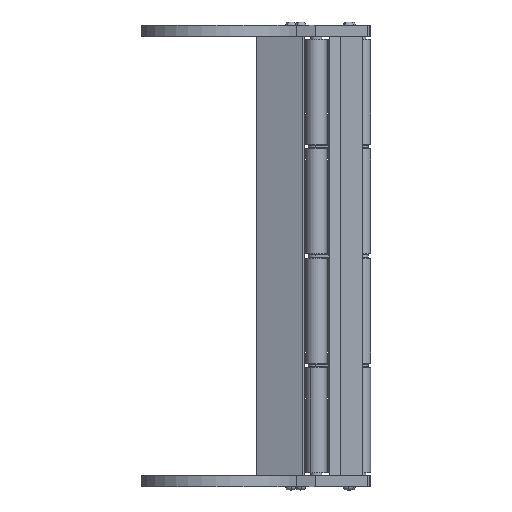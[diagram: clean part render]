
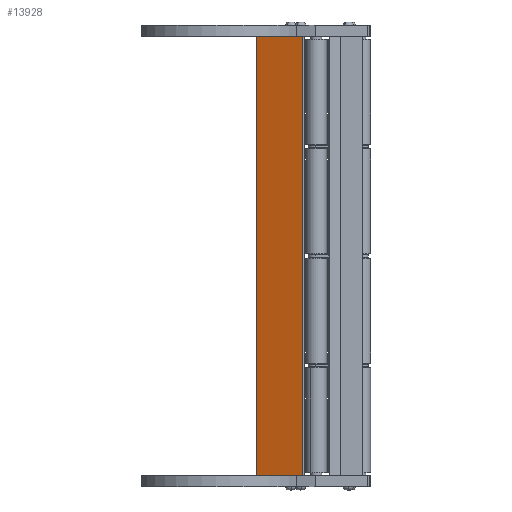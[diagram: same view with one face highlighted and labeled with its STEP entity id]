
A CAD part, front view. The second image highlights one B-rep face of the part: STEP entity #13928.
In plain terms, the highlighted planar face has unit normal (-0.342, -0.94, 0) as drawn and (0.342, -0.94, 0) by its records, which use the part's own axes.
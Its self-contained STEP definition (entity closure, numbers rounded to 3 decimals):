
#1129 = CARTESIAN_POINT ( 'NONE',  ( 1.655, 0., 316. ) ) ;
#1364 = VECTOR ( 'NONE', #8204, 1000. ) ;
#1805 = EDGE_CURVE ( 'NONE', #5813, #10545, #4892, .T. ) ;
#2301 = EDGE_CURVE ( 'NONE', #13334, #10287, #17823, .T. ) ;
#2411 = FACE_OUTER_BOUND ( 'NONE', #14574, .T. ) ;
#2855 = DIRECTION ( 'NONE',  ( -0.342, 0.94, 0. ) ) ;
#3111 = EDGE_CURVE ( 'NONE', #10287, #10545, #5235, .T. ) ;
#3582 = VECTOR ( 'NONE', #16710, 1000. ) ;
#3691 = VECTOR ( 'NONE', #6931, 1000. ) ;
#4084 = CARTESIAN_POINT ( 'NONE',  ( 1.655, 0., 316. ) ) ;
#4892 = LINE ( 'NONE', #5068, #3582 ) ;
#5068 = CARTESIAN_POINT ( 'NONE',  ( 35., 12.137, 316. ) ) ;
#5128 = AXIS2_PLACEMENT_3D ( 'NONE', #18409, #2855, #5354 ) ;
#5235 = LINE ( 'NONE', #17257, #1364 ) ;
#5354 = DIRECTION ( 'NONE',  ( -0.94, -0.342, 0. ) ) ;
#5813 = VERTEX_POINT ( 'NONE', #12824 ) ;
#6242 = ORIENTED_EDGE ( 'NONE', *, *, #1805, .F. ) ;
#6931 = DIRECTION ( 'NONE',  ( 0.94, 0.342, 0. ) ) ;
#8204 = DIRECTION ( 'NONE',  ( 0.94, 0.342, 0. ) ) ;
#8363 = ORIENTED_EDGE ( 'NONE', *, *, #9775, .F. ) ;
#9775 = EDGE_CURVE ( 'NONE', #13334, #5813, #17047, .T. ) ;
#10287 = VERTEX_POINT ( 'NONE', #17564 ) ;
#10516 = DIRECTION ( 'NONE',  ( 0., 0., -1. ) ) ;
#10545 = VERTEX_POINT ( 'NONE', #15547 ) ;
#11848 = ORIENTED_EDGE ( 'NONE', *, *, #2301, .T. ) ;
#12075 = VECTOR ( 'NONE', #10516, 1000. ) ;
#12824 = CARTESIAN_POINT ( 'NONE',  ( 35., 12.137, 316. ) ) ;
#13334 = VERTEX_POINT ( 'NONE', #4084 ) ;
#13928 = ADVANCED_FACE ( 'NONE', ( #2411 ), #14059, .F. ) ;
#14059 = PLANE ( 'NONE',  #5128 ) ;
#14574 = EDGE_LOOP ( 'NONE', ( #17955, #6242, #8363, #11848 ) ) ;
#15547 = CARTESIAN_POINT ( 'NONE',  ( 35., 12.137, 0. ) ) ;
#16710 = DIRECTION ( 'NONE',  ( 0., 0., -1. ) ) ;
#17047 = LINE ( 'NONE', #1129, #3691 ) ;
#17257 = CARTESIAN_POINT ( 'NONE',  ( 35., 12.137, 0. ) ) ;
#17564 = CARTESIAN_POINT ( 'NONE',  ( 1.655, 0., 0. ) ) ;
#17725 = CARTESIAN_POINT ( 'NONE',  ( 1.655, 0., 316. ) ) ;
#17823 = LINE ( 'NONE', #17725, #12075 ) ;
#17955 = ORIENTED_EDGE ( 'NONE', *, *, #3111, .T. ) ;
#18409 = CARTESIAN_POINT ( 'NONE',  ( 35., 12.137, 316. ) ) ;
